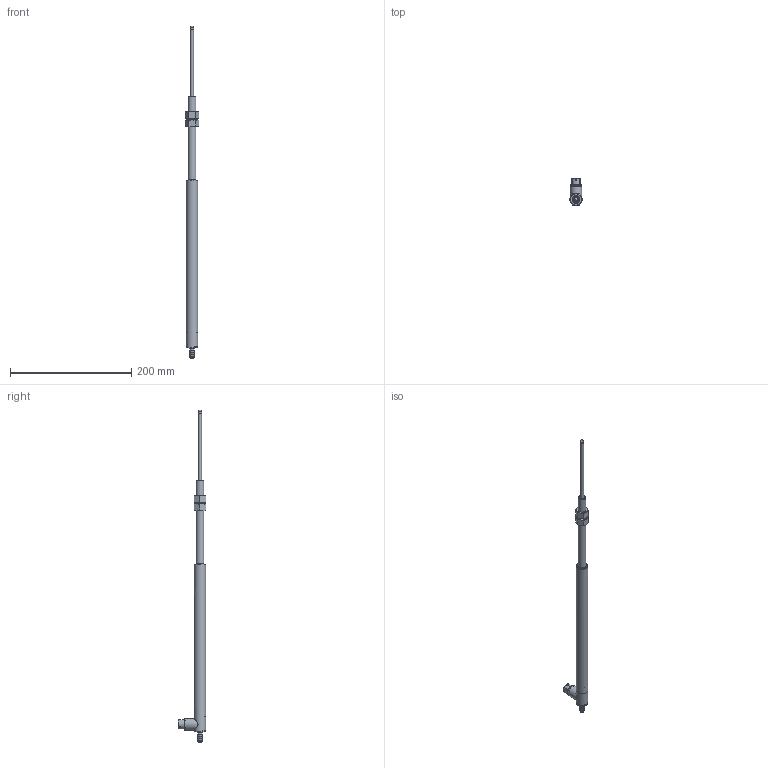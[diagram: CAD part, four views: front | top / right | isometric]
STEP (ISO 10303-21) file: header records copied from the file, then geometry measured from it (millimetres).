
FILE_DESCRIPTION(/* description */ (''),/* implementation_level */ '2;1');
FILE_NAME(/* name */ 'GHRA-750-A-2000 ASS''Y.iam.stp',/* time_stamp */ '2023-11-09T15:21:18-05:00',/* author */ ('J. Nielson'),/* organization */ (''),/* preprocessor_version */ 'ST-DEVELOPER v20',/* originating_system */ 'Autodesk Inventor 2024',/* authorisation */ '');
FILE_SCHEMA (('AUTOMOTIVE_DESIGN { 1 0 10303 214 3 1 1 }'));
Length unit declared in the file: inch
Products named in the file (4): GHRA-750-A-2000 ASSEMBLY; GHRA-750-A-2000 HOUSING_Substitute_1; GHRA-750-A-2000 SHAFT_Substitute_1; AS 2465 - 1/2  UNF
Assembly tree (4 placements, depth 2):
  GHRA-750-A-2000 ASSEMBLY
    GHRA-750-A-2000 HOUSING_Substitute_1
    GHRA-750-A-2000 SHAFT_Substitute_1
    AS 2465 - 1/2  UNF  x2
Bounding box: 22 x 45.24 x 548.26 mm (x, y, z)
Volume: 50085.5 mm3; surface area: 54091.1 mm2
Topology: 17 solids, 17 shells, 222 faces, 441 edges, 283 vertices
Faces by surface type: plane 88, cylinder 74, cone 47, bspline 7, torus 5, sphere 1
Full cylindrical faces by diameter (mm): 0.762 x12, 2.032 x3, 2.845 x3, 3.048 x3, 4.762 x1, 4.826 x2, 5.334 x4, 5.397 x1, 6 x1, 6.731 x1, 7.493 x4, 7.671 x2, 7.874 x1, 11.328 x2, 12.7 x1, 13.208 x1, 14.986 x1, 15.748 x2, 16.51 x1, 17.018 x1, 17.069 x1, 17.78 x1, 18.034 x1, 18.415 x6, 19.05 x2
Entity records: 7731 total; most frequent: CARTESIAN_POINT 3160, DIRECTION 946, ORIENTED_EDGE 778, AXIS2_PLACEMENT_3D 405, EDGE_CURVE 389, EDGE_LOOP 257, VERTEX_POINT 254, CIRCLE 205
